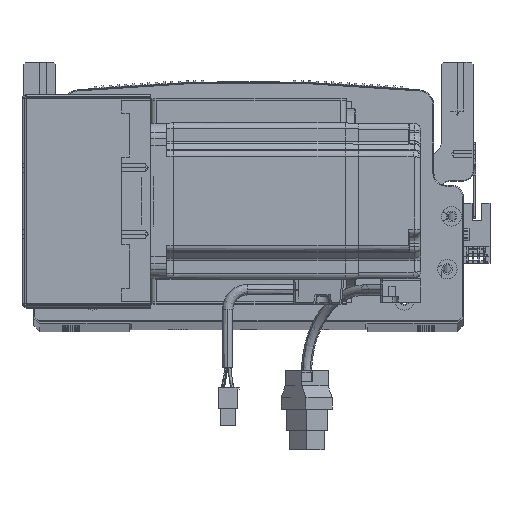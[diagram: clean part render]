
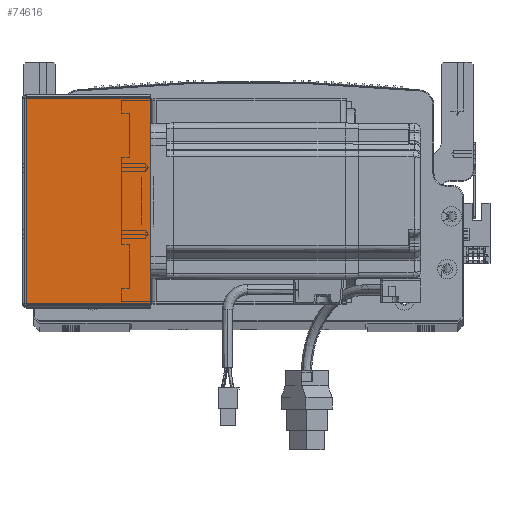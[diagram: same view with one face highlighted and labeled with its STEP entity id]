
A CAD part, top view. The second image highlights one B-rep face of the part: STEP entity #74616.
In plain terms, the highlighted planar face has unit normal (0, 0, 1) as drawn and (0, 0, -1) by its records, which use the part's own axes.
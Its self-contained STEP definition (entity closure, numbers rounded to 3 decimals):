
#14 = CARTESIAN_POINT ( 'NONE',  ( 0.737, 0.707, -205.5 ) ) ;
#5960 = DIRECTION ( 'NONE',  ( 0., 0., 1. ) ) ;
#6900 = PLANE ( 'NONE',  #66039 ) ;
#8934 = DIRECTION ( 'NONE',  ( 1., 0., 0. ) ) ;
#11342 = EDGE_CURVE ( 'NONE', #44088, #16901, #24438, .T. ) ;
#12795 = FACE_OUTER_BOUND ( 'NONE', #86486, .T. ) ;
#13911 = DIRECTION ( 'NONE',  ( 0., -1., 0. ) ) ;
#16255 = LINE ( 'NONE', #30315, #67325 ) ;
#16901 = VERTEX_POINT ( 'NONE', #14 ) ;
#20862 = CARTESIAN_POINT ( 'NONE',  ( 0.737, 0., -205.5 ) ) ;
#21092 = VERTEX_POINT ( 'NONE', #69461 ) ;
#22772 = CARTESIAN_POINT ( 'NONE',  ( 0., 0., -205.5 ) ) ;
#24438 = LINE ( 'NONE', #20862, #86918 ) ;
#28834 = ORIENTED_EDGE ( 'NONE', *, *, #67308, .F. ) ;
#30218 = ORIENTED_EDGE ( 'NONE', *, *, #44652, .T. ) ;
#30315 = CARTESIAN_POINT ( 'NONE',  ( 0., 105.293, -205.5 ) ) ;
#32111 = CARTESIAN_POINT ( 'NONE',  ( 0., 0.707, -205.5 ) ) ;
#33081 = CARTESIAN_POINT ( 'NONE',  ( 64.5, 0., -205.5 ) ) ;
#37887 = DIRECTION ( 'NONE',  ( 1., 0., 0. ) ) ;
#39535 = CARTESIAN_POINT ( 'NONE',  ( 64.5, 0.707, -205.5 ) ) ;
#41100 = CARTESIAN_POINT ( 'NONE',  ( 0.737, 105.293, -205.5 ) ) ;
#44088 = VERTEX_POINT ( 'NONE', #41100 ) ;
#44652 = EDGE_CURVE ( 'NONE', #21092, #64083, #67058, .T. ) ;
#46476 = DIRECTION ( 'NONE',  ( 1., 0., 0. ) ) ;
#55257 = DIRECTION ( 'NONE',  ( 0., -1., 0. ) ) ;
#61924 = VECTOR ( 'NONE', #8934, 1000. ) ;
#64083 = VERTEX_POINT ( 'NONE', #39535 ) ;
#66039 = AXIS2_PLACEMENT_3D ( 'NONE', #22772, #5960, #37887 ) ;
#67058 = LINE ( 'NONE', #33081, #72766 ) ;
#67308 = EDGE_CURVE ( 'NONE', #16901, #64083, #68773, .T. ) ;
#67325 = VECTOR ( 'NONE', #46476, 1000. ) ;
#68773 = LINE ( 'NONE', #32111, #61924 ) ;
#69461 = CARTESIAN_POINT ( 'NONE',  ( 64.5, 105.293, -205.5 ) ) ;
#72766 = VECTOR ( 'NONE', #55257, 1000. ) ;
#74616 = ADVANCED_FACE ( 'NONE', ( #12795 ), #6900, .F. ) ;
#81701 = ORIENTED_EDGE ( 'NONE', *, *, #84801, .T. ) ;
#84801 = EDGE_CURVE ( 'NONE', #44088, #21092, #16255, .T. ) ;
#86486 = EDGE_LOOP ( 'NONE', ( #88603, #81701, #30218, #28834 ) ) ;
#86918 = VECTOR ( 'NONE', #13911, 1000. ) ;
#88603 = ORIENTED_EDGE ( 'NONE', *, *, #11342, .F. ) ;
